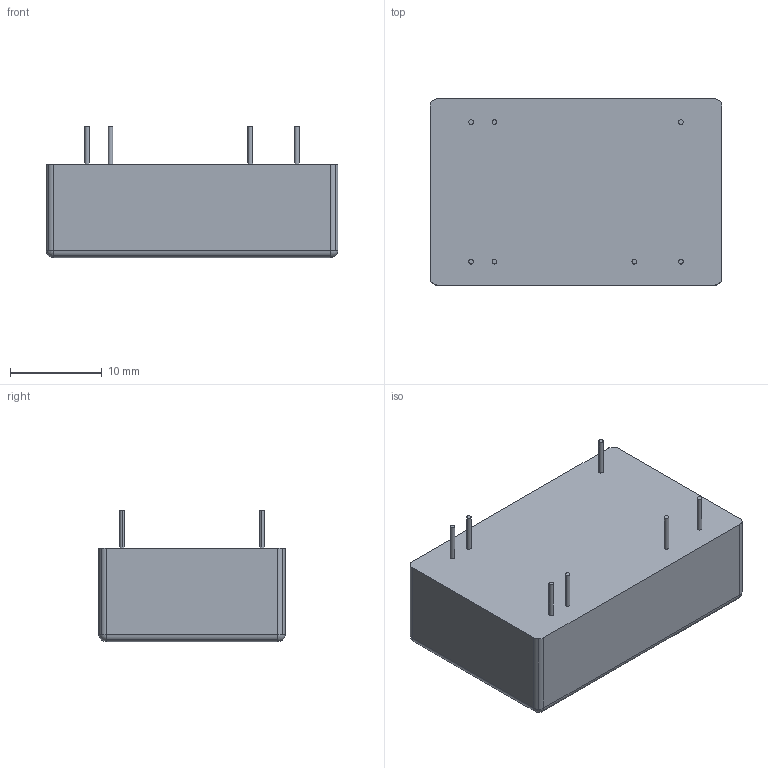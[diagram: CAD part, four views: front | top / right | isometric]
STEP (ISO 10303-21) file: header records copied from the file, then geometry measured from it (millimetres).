
FILE_DESCRIPTION (( 'STEP AP214' ), '1' );
FILE_NAME ('MIW3000-S.STEP', '2026-09-17T09:04:49', ( '' ), ( '' ), 'SwSTEP 2.0', 'SolidWorks 2021', '' );
FILE_SCHEMA (( 'AUTOMOTIVE_DESIGN' ));
Length unit declared in the file: millimetre
Products named in the file (1): MIW3000-S
Bounding box: 31.8 x 20.3 x 14.3 mm (x, y, z)
Volume: 6570.6 mm3; surface area: 2348.3 mm2
Topology: 1 solids, 1 shells, 47 faces, 106 edges, 64 vertices
Faces by surface type: cylinder 30, plane 13, sphere 4
Entity records: 1334 total; most frequent: DIRECTION 258, CARTESIAN_POINT 214, ORIENTED_EDGE 204, AXIS2_PLACEMENT_3D 108, EDGE_CURVE 102, VERTEX_POINT 64, CIRCLE 60, EDGE_LOOP 54
